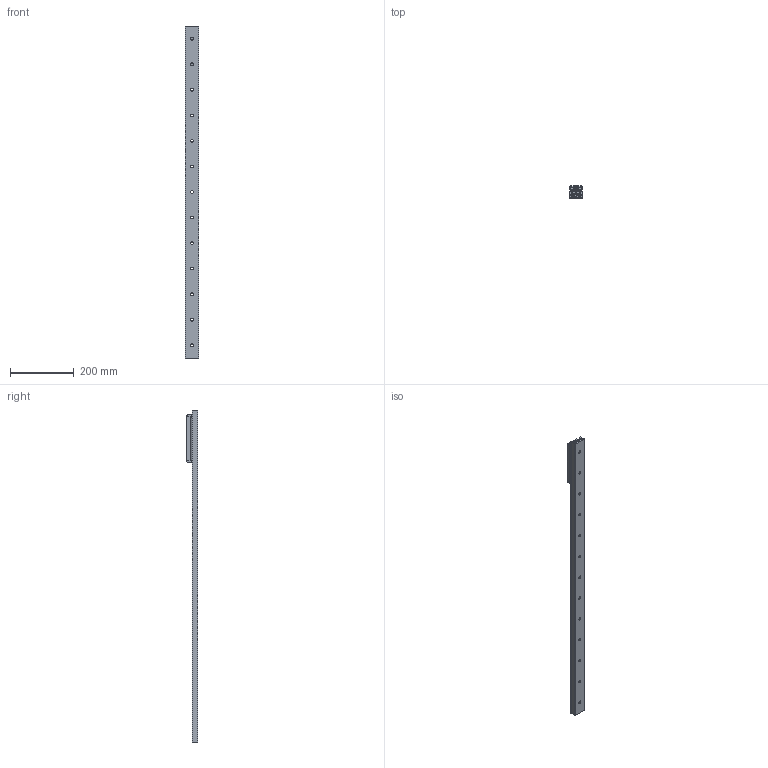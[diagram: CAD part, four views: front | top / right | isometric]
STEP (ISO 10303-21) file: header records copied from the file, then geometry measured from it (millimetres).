
FILE_DESCRIPTION( ( 'STEP AP214' ), '1' );
FILE_NAME( 'p:/temp/worker_54/temp/exporttempdir_3164_715_YvLzu/format_2/TGV-01040_1_RV43G-3.stp', '2021-06-09T18:25:16', ( 'License CC BY-ND 4.0' ), ( 'CADENAS' ), ' ', 'PARTsolutions', ' ' );
FILE_SCHEMA( ( 'AUTOMOTIVE_DESIGN { 1 0 10303 214 1 1 1 1 }' ) );
Length unit declared in the file: millimetre
Products named in the file (6): TGV-01040/1/RV43G-3; _TGV43-1040-(3-1); _RVG43-3-slider; _RGNV43R; _RGAV43R; _WR43G-01
Assembly tree (7 placements, depth 2):
  TGV-01040/1/RV43G-3
    _TGV43-1040-(3-1)
    _RVG43-3-slider
    _RGNV43R  x2
    _RGAV43R
    _WR43G-01  x2
Bounding box: 43 x 37 x 1040 mm (x, y, z)
Volume: 501716.5 mm3; surface area: 200864.2 mm2
Topology: 7 solids, 7 shells, 1067 faces, 2789 edges, 1818 vertices
Faces by surface type: plane 663, cylinder 309, cone 52, bspline 34, torus 9
Full cylindrical faces by diameter (mm): 1.76 x4, 3 x8, 6 x4, 6.647 x4, 6.8 x3, 8 x3, 8.5 x13, 11 x11, 15 x6, 15.5 x1, 18.98 x2, 19 x1, 31.4 x6
Entity records: 25403 total; most frequent: CARTESIAN_POINT 4030, DIRECTION 3397, ORIENTED_EDGE 3142, EDGE_CURVE 1571, AXIS2_PLACEMENT_3D 1295, VERTEX_POINT 1090, EDGE_LOOP 875, LINE 807
